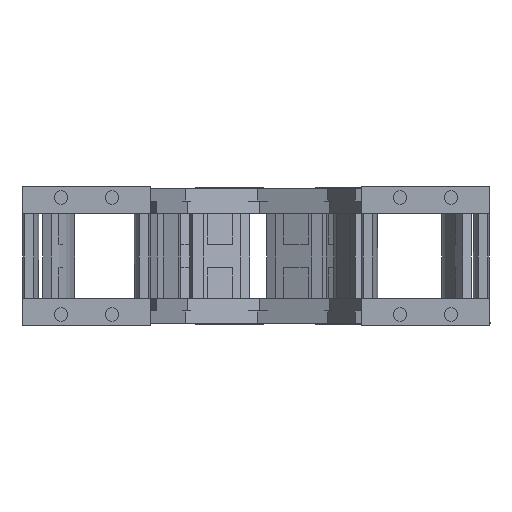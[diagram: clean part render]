
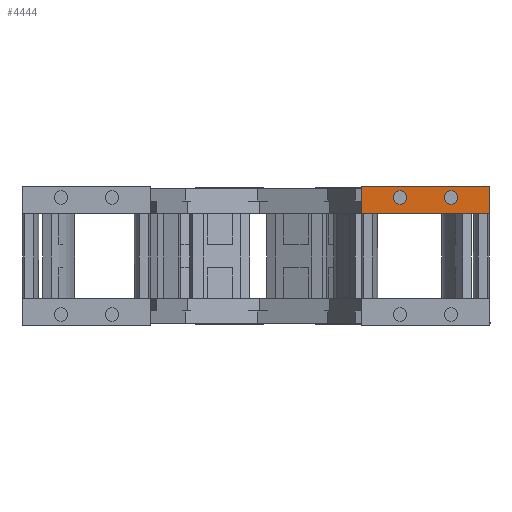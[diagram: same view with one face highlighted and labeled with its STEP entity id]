
A CAD part, left-side view. The second image highlights one B-rep face of the part: STEP entity #4444.
In plain terms, the highlighted planar face has unit normal (-1, 0, 0) as drawn and (1, 0, 0) by its records, which use the part's own axes.
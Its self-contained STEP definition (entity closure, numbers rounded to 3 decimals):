
#3708=CARTESIAN_POINT('',(1097.5,-625.5,9.5));
#3709=DIRECTION('',(1.,0.,0.));
#3710=DIRECTION('',(0.,1.,0.));
#3711=AXIS2_PLACEMENT_3D('',#3708,#3709,#3710);
#3713=CARTESIAN_POINT('',(1097.5,-625.5,9.5));
#3714=DIRECTION('',(1.,0.,0.));
#3715=DIRECTION('',(0.,-1.,0.));
#3716=AXIS2_PLACEMENT_3D('',#3713,#3714,#3715);
#3718=CARTESIAN_POINT('',(1097.5,-595.5,9.5));
#3719=DIRECTION('',(1.,0.,0.));
#3720=DIRECTION('',(0.,1.,0.));
#3721=AXIS2_PLACEMENT_3D('',#3718,#3719,#3720);
#3723=CARTESIAN_POINT('',(1097.5,-595.5,9.5));
#3724=DIRECTION('',(1.,0.,0.));
#3725=DIRECTION('',(0.,-1.,0.));
#3726=AXIS2_PLACEMENT_3D('',#3723,#3724,#3725);
#3728=DIRECTION('',(0.,1.,0.));
#3729=VECTOR('',#3728,76.);
#3730=CARTESIAN_POINT('',(1097.5,-648.5,16.1));
#3731=LINE('',#3730,#3729);
#3732=DIRECTION('',(0.,0.,-1.));
#3733=VECTOR('',#3732,16.1);
#3734=CARTESIAN_POINT('',(1097.5,-572.5,16.1));
#3735=LINE('',#3734,#3733);
#3807=DIRECTION('',(0.,1.,0.));
#3808=VECTOR('',#3807,76.);
#3809=CARTESIAN_POINT('',(1097.5,-648.5,0.));
#3810=LINE('',#3809,#3808);
#3960=DIRECTION('',(0.,0.,-1.));
#3961=VECTOR('',#3960,16.1);
#3962=CARTESIAN_POINT('',(1097.5,-648.5,16.1));
#3963=LINE('',#3962,#3961);
#4101=CARTESIAN_POINT('',(1097.5,-572.5,16.1));
#4103=VERTEX_POINT('',#4101);
#4104=CARTESIAN_POINT('',(1097.5,-648.5,16.1));
#4105=VERTEX_POINT('',#4104);
#4114=CARTESIAN_POINT('',(1097.5,-572.5,0.));
#4115=VERTEX_POINT('',#4114);
#4150=CARTESIAN_POINT('',(1097.5,-648.5,0.));
#4151=VERTEX_POINT('',#4150);
#4168=CARTESIAN_POINT('',(1097.5,-591.55,9.5));
#4169=CARTESIAN_POINT('',(1097.5,-599.45,9.5));
#4170=VERTEX_POINT('',#4168);
#4171=VERTEX_POINT('',#4169);
#4172=CARTESIAN_POINT('',(1097.5,-621.55,9.5));
#4173=CARTESIAN_POINT('',(1097.5,-629.45,9.5));
#4174=VERTEX_POINT('',#4172);
#4175=VERTEX_POINT('',#4173);
#4419=CARTESIAN_POINT('',(1097.5,-648.5,14.8));
#4420=DIRECTION('',(1.,0.,0.));
#4421=DIRECTION('',(0.,1.,0.));
#4422=AXIS2_PLACEMENT_3D('',#4419,#4420,#4421);
#4423=PLANE('',#4422);
#4425=ORIENTED_EDGE('',*,*,#4424,.F.);
#4427=ORIENTED_EDGE('',*,*,#4426,.F.);
#4429=ORIENTED_EDGE('',*,*,#4428,.T.);
#4430=ORIENTED_EDGE('',*,*,#4260,.T.);
#4431=EDGE_LOOP('',(#4425,#4427,#4429,#4430));
#4432=FACE_OUTER_BOUND('',#4431,.F.);
#4434=ORIENTED_EDGE('',*,*,#4433,.T.);
#4436=ORIENTED_EDGE('',*,*,#4435,.T.);
#4437=EDGE_LOOP('',(#4434,#4436));
#4438=FACE_BOUND('',#4437,.F.);
#4439=ORIENTED_EDGE('',*,*,#4409,.T.);
#4441=ORIENTED_EDGE('',*,*,#4440,.T.);
#4442=EDGE_LOOP('',(#4439,#4441));
#4443=FACE_BOUND('',#4442,.F.);
#4444=ADVANCED_FACE('',(#4432,#4438,#4443),#4423,.T.);
#3712=CIRCLE('',#3711,3.95);
#3717=CIRCLE('',#3716,3.95);
#3722=CIRCLE('',#3721,3.95);
#3727=CIRCLE('',#3726,3.95);
#4260=EDGE_CURVE('',#4103,#4115,#3735,.T.);
#4409=EDGE_CURVE('',#4174,#4175,#3712,.T.);
#4424=EDGE_CURVE('',#4151,#4115,#3810,.T.);
#4426=EDGE_CURVE('',#4105,#4151,#3963,.T.);
#4428=EDGE_CURVE('',#4105,#4103,#3731,.T.);
#4433=EDGE_CURVE('',#4170,#4171,#3722,.T.);
#4435=EDGE_CURVE('',#4171,#4170,#3727,.T.);
#4440=EDGE_CURVE('',#4175,#4174,#3717,.T.);
